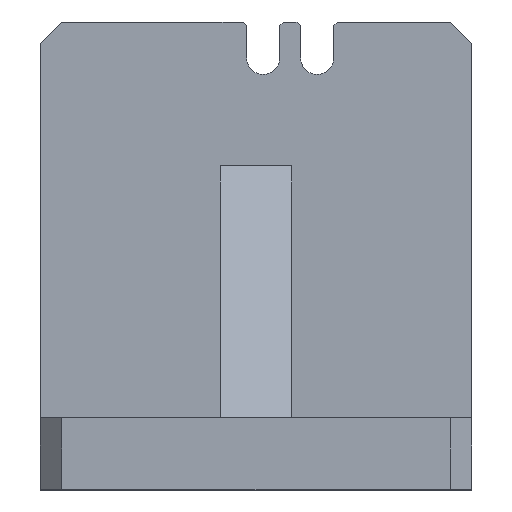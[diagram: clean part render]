
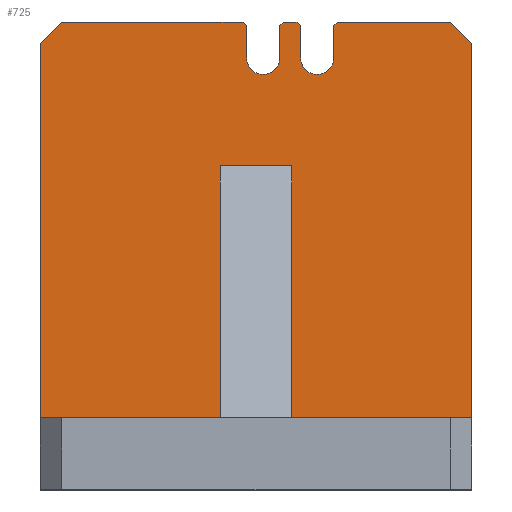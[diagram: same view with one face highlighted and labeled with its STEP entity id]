
A CAD part, top view. The second image highlights one B-rep face of the part: STEP entity #725.
In plain terms, the highlighted planar face has unit normal (0, 0, 1).
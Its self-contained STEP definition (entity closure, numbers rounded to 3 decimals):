
#561=AXIS2_PLACEMENT_3D('Plane Axis2P3D',#558,#559,#560) ;
#574=AXIS2_PLACEMENT_3D('Circle Axis2P3D',#572,#573,$) ;
#616=AXIS2_PLACEMENT_3D('Circle Axis2P3D',#614,#615,$) ;
#264=CARTESIAN_POINT('Vertex',(60.,-55.,10.)) ;
#269=CARTESIAN_POINT('Line Origine',(47.5,-55.,10.)) ;
#273=CARTESIAN_POINT('Vertex',(35.,-55.,10.)) ;
#378=CARTESIAN_POINT('Vertex',(60.,-3.,10.)) ;
#381=CARTESIAN_POINT('Line Origine',(60.,-29.,10.)) ;
#558=CARTESIAN_POINT('Axis2P3D Location',(0.,0.,10.)) ;
#563=CARTESIAN_POINT('Line Origine',(40.8,-2.75,10.)) ;
#567=CARTESIAN_POINT('Vertex',(40.8,-5.,10.)) ;
#569=CARTESIAN_POINT('Vertex',(40.8,-0.5,10.)) ;
#572=CARTESIAN_POINT('Axis2P3D Location',(38.5,-5.,10.)) ;
#576=CARTESIAN_POINT('Vertex',(36.2,-5.,10.)) ;
#579=CARTESIAN_POINT('Line Origine',(36.2,-2.75,10.)) ;
#583=CARTESIAN_POINT('Vertex',(36.2,-0.5,10.)) ;
#586=CARTESIAN_POINT('Line Origine',(35.95,-0.25,10.)) ;
#590=CARTESIAN_POINT('Vertex',(35.7,0.,10.)) ;
#593=CARTESIAN_POINT('Line Origine',(34.75,0.,10.)) ;
#597=CARTESIAN_POINT('Vertex',(33.8,0.,10.)) ;
#600=CARTESIAN_POINT('Line Origine',(33.55,-0.25,10.)) ;
#604=CARTESIAN_POINT('Vertex',(33.3,-0.5,10.)) ;
#607=CARTESIAN_POINT('Line Origine',(33.3,-2.75,10.)) ;
#611=CARTESIAN_POINT('Vertex',(33.3,-5.,10.)) ;
#614=CARTESIAN_POINT('Axis2P3D Location',(31.,-5.,10.)) ;
#618=CARTESIAN_POINT('Vertex',(28.7,-5.,10.)) ;
#621=CARTESIAN_POINT('Line Origine',(28.7,-2.75,10.)) ;
#625=CARTESIAN_POINT('Vertex',(28.7,-0.5,10.)) ;
#628=CARTESIAN_POINT('Line Origine',(28.45,-0.25,10.)) ;
#632=CARTESIAN_POINT('Vertex',(28.2,0.,10.)) ;
#635=CARTESIAN_POINT('Line Origine',(15.6,0.,10.)) ;
#639=CARTESIAN_POINT('Vertex',(3.,0.,10.)) ;
#642=CARTESIAN_POINT('Line Origine',(1.5,-1.5,10.)) ;
#646=CARTESIAN_POINT('Vertex',(0.,-3.,10.)) ;
#649=CARTESIAN_POINT('Line Origine',(0.,-29.,10.)) ;
#653=CARTESIAN_POINT('Vertex',(0.,-55.,10.)) ;
#656=CARTESIAN_POINT('Line Origine',(12.5,-55.,10.)) ;
#660=CARTESIAN_POINT('Vertex',(25.,-55.,10.)) ;
#663=CARTESIAN_POINT('Line Origine',(25.,-37.5,10.)) ;
#667=CARTESIAN_POINT('Vertex',(25.,-20.,10.)) ;
#670=CARTESIAN_POINT('Line Origine',(30.,-20.,10.)) ;
#674=CARTESIAN_POINT('Vertex',(35.,-20.,10.)) ;
#677=CARTESIAN_POINT('Line Origine',(35.,-37.5,10.)) ;
#682=CARTESIAN_POINT('Line Origine',(58.5,-1.5,10.)) ;
#686=CARTESIAN_POINT('Vertex',(57.,0.,10.)) ;
#689=CARTESIAN_POINT('Line Origine',(49.15,0.,10.)) ;
#693=CARTESIAN_POINT('Vertex',(41.3,0.,10.)) ;
#696=CARTESIAN_POINT('Line Origine',(41.05,-0.25,10.)) ;
#270=DIRECTION('Vector Direction',(-1.,0.,0.)) ;
#382=DIRECTION('Vector Direction',(0.,1.,0.)) ;
#559=DIRECTION('Axis2P3D Direction',(0.,0.,1.)) ;
#560=DIRECTION('Axis2P3D XDirection',(1.,0.,0.)) ;
#564=DIRECTION('Vector Direction',(0.,1.,0.)) ;
#573=DIRECTION('Axis2P3D Direction',(0.,0.,1.)) ;
#580=DIRECTION('Vector Direction',(0.,1.,0.)) ;
#587=DIRECTION('Vector Direction',(0.707,-0.707,0.)) ;
#594=DIRECTION('Vector Direction',(1.,0.,0.)) ;
#601=DIRECTION('Vector Direction',(-0.707,-0.707,0.)) ;
#608=DIRECTION('Vector Direction',(0.,1.,0.)) ;
#615=DIRECTION('Axis2P3D Direction',(0.,0.,1.)) ;
#622=DIRECTION('Vector Direction',(0.,1.,0.)) ;
#629=DIRECTION('Vector Direction',(0.707,-0.707,0.)) ;
#636=DIRECTION('Vector Direction',(1.,0.,0.)) ;
#643=DIRECTION('Vector Direction',(0.707,0.707,0.)) ;
#650=DIRECTION('Vector Direction',(0.,-1.,0.)) ;
#657=DIRECTION('Vector Direction',(-1.,0.,0.)) ;
#664=DIRECTION('Vector Direction',(0.,1.,0.)) ;
#671=DIRECTION('Vector Direction',(-1.,0.,0.)) ;
#678=DIRECTION('Vector Direction',(0.,1.,0.)) ;
#683=DIRECTION('Vector Direction',(0.707,-0.707,0.)) ;
#690=DIRECTION('Vector Direction',(1.,0.,0.)) ;
#697=DIRECTION('Vector Direction',(-0.707,-0.707,0.)) ;
#271=VECTOR('Line Direction',#270,1.) ;
#383=VECTOR('Line Direction',#382,1.) ;
#565=VECTOR('Line Direction',#564,1.) ;
#581=VECTOR('Line Direction',#580,1.) ;
#588=VECTOR('Line Direction',#587,1.) ;
#595=VECTOR('Line Direction',#594,1.) ;
#602=VECTOR('Line Direction',#601,1.) ;
#609=VECTOR('Line Direction',#608,1.) ;
#623=VECTOR('Line Direction',#622,1.) ;
#630=VECTOR('Line Direction',#629,1.) ;
#637=VECTOR('Line Direction',#636,1.) ;
#644=VECTOR('Line Direction',#643,1.) ;
#651=VECTOR('Line Direction',#650,1.) ;
#658=VECTOR('Line Direction',#657,1.) ;
#665=VECTOR('Line Direction',#664,1.) ;
#672=VECTOR('Line Direction',#671,1.) ;
#679=VECTOR('Line Direction',#678,1.) ;
#684=VECTOR('Line Direction',#683,1.) ;
#691=VECTOR('Line Direction',#690,1.) ;
#698=VECTOR('Line Direction',#697,1.) ;
#702=ORIENTED_EDGE('',*,*,#571,.F.) ;
#703=ORIENTED_EDGE('',*,*,#578,.F.) ;
#704=ORIENTED_EDGE('',*,*,#585,.F.) ;
#705=ORIENTED_EDGE('',*,*,#592,.F.) ;
#706=ORIENTED_EDGE('',*,*,#599,.T.) ;
#707=ORIENTED_EDGE('',*,*,#606,.F.) ;
#708=ORIENTED_EDGE('',*,*,#613,.F.) ;
#709=ORIENTED_EDGE('',*,*,#620,.F.) ;
#710=ORIENTED_EDGE('',*,*,#627,.F.) ;
#711=ORIENTED_EDGE('',*,*,#634,.F.) ;
#712=ORIENTED_EDGE('',*,*,#641,.T.) ;
#713=ORIENTED_EDGE('',*,*,#648,.F.) ;
#714=ORIENTED_EDGE('',*,*,#655,.T.) ;
#715=ORIENTED_EDGE('',*,*,#662,.F.) ;
#716=ORIENTED_EDGE('',*,*,#669,.F.) ;
#717=ORIENTED_EDGE('',*,*,#676,.F.) ;
#718=ORIENTED_EDGE('',*,*,#681,.T.) ;
#719=ORIENTED_EDGE('',*,*,#275,.F.) ;
#720=ORIENTED_EDGE('',*,*,#385,.T.) ;
#721=ORIENTED_EDGE('',*,*,#688,.F.) ;
#722=ORIENTED_EDGE('',*,*,#695,.T.) ;
#723=ORIENTED_EDGE('',*,*,#700,.F.) ;
#725=ADVANCED_FACE('\X2\96F64EF651E04F554F53\X0\',(#724),#562,.T.) ;
#575=CIRCLE('generated circle',#574,2.3) ;
#617=CIRCLE('generated circle',#616,2.3) ;
#275=EDGE_CURVE('',#265,#274,#272,.T.) ;
#385=EDGE_CURVE('',#265,#379,#384,.T.) ;
#571=EDGE_CURVE('',#568,#570,#566,.T.) ;
#578=EDGE_CURVE('',#577,#568,#575,.T.) ;
#585=EDGE_CURVE('',#584,#577,#582,.F.) ;
#592=EDGE_CURVE('',#591,#584,#589,.T.) ;
#599=EDGE_CURVE('',#591,#598,#596,.F.) ;
#606=EDGE_CURVE('',#605,#598,#603,.F.) ;
#613=EDGE_CURVE('',#612,#605,#610,.T.) ;
#620=EDGE_CURVE('',#619,#612,#617,.T.) ;
#627=EDGE_CURVE('',#626,#619,#624,.F.) ;
#634=EDGE_CURVE('',#633,#626,#631,.T.) ;
#641=EDGE_CURVE('',#633,#640,#638,.F.) ;
#648=EDGE_CURVE('',#647,#640,#645,.T.) ;
#655=EDGE_CURVE('',#647,#654,#652,.T.) ;
#662=EDGE_CURVE('',#661,#654,#659,.T.) ;
#669=EDGE_CURVE('',#668,#661,#666,.F.) ;
#676=EDGE_CURVE('',#675,#668,#673,.T.) ;
#681=EDGE_CURVE('',#675,#274,#680,.F.) ;
#688=EDGE_CURVE('',#687,#379,#685,.T.) ;
#695=EDGE_CURVE('',#687,#694,#692,.F.) ;
#700=EDGE_CURVE('',#570,#694,#699,.F.) ;
#701=EDGE_LOOP('',(#702,#703,#704,#705,#706,#707,#708,#709,#710,#711,#712,#713,#714,#715,#716,#717,#718,#719,#720,#721,#722,#723)) ;
#724=FACE_OUTER_BOUND('',#701,.T.) ;
#272=LINE('Line',#269,#271) ;
#384=LINE('Line',#381,#383) ;
#566=LINE('Line',#563,#565) ;
#582=LINE('Line',#579,#581) ;
#589=LINE('Line',#586,#588) ;
#596=LINE('Line',#593,#595) ;
#603=LINE('Line',#600,#602) ;
#610=LINE('Line',#607,#609) ;
#624=LINE('Line',#621,#623) ;
#631=LINE('Line',#628,#630) ;
#638=LINE('Line',#635,#637) ;
#645=LINE('Line',#642,#644) ;
#652=LINE('Line',#649,#651) ;
#659=LINE('Line',#656,#658) ;
#666=LINE('Line',#663,#665) ;
#673=LINE('Line',#670,#672) ;
#680=LINE('Line',#677,#679) ;
#685=LINE('Line',#682,#684) ;
#692=LINE('Line',#689,#691) ;
#699=LINE('Line',#696,#698) ;
#562=PLANE('',#561) ;
#265=VERTEX_POINT('',#264) ;
#274=VERTEX_POINT('',#273) ;
#379=VERTEX_POINT('',#378) ;
#568=VERTEX_POINT('',#567) ;
#570=VERTEX_POINT('',#569) ;
#577=VERTEX_POINT('',#576) ;
#584=VERTEX_POINT('',#583) ;
#591=VERTEX_POINT('',#590) ;
#598=VERTEX_POINT('',#597) ;
#605=VERTEX_POINT('',#604) ;
#612=VERTEX_POINT('',#611) ;
#619=VERTEX_POINT('',#618) ;
#626=VERTEX_POINT('',#625) ;
#633=VERTEX_POINT('',#632) ;
#640=VERTEX_POINT('',#639) ;
#647=VERTEX_POINT('',#646) ;
#654=VERTEX_POINT('',#653) ;
#661=VERTEX_POINT('',#660) ;
#668=VERTEX_POINT('',#667) ;
#675=VERTEX_POINT('',#674) ;
#687=VERTEX_POINT('',#686) ;
#694=VERTEX_POINT('',#693) ;
